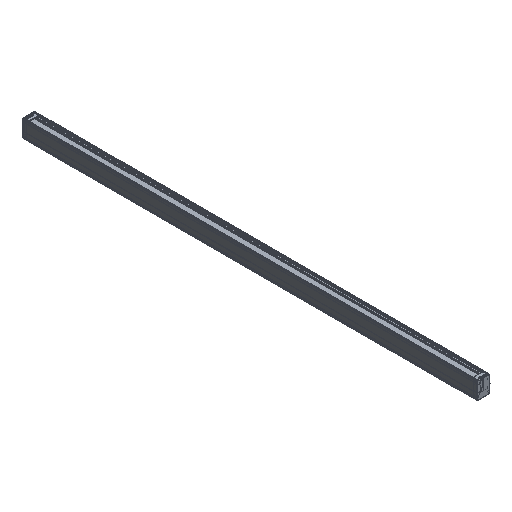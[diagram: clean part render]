
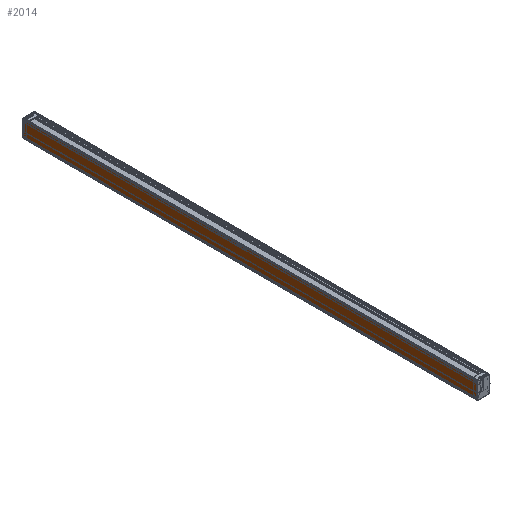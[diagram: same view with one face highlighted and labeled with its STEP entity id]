
A CAD part, isometric view. The second image highlights one B-rep face of the part: STEP entity #2014.
In plain terms, the highlighted free-form (B-spline) face has degree [2, 1] with [3, 2] control points.
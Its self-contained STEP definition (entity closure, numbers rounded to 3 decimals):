
#2014=ADVANCED_FACE('',(#4020),#72734,.T.);
#4020=FACE_OUTER_BOUND('',#6112,.T.);
#6112=EDGE_LOOP('',(#16488,#16489,#16490,#16491));
#16488=ORIENTED_EDGE('',*,*,#53050,.T.);
#16489=ORIENTED_EDGE('',*,*,#53051,.T.);
#16490=ORIENTED_EDGE('',*,*,#53052,.T.);
#16491=ORIENTED_EDGE('',*,*,#53048,.F.);
#18834=(
BOUNDED_CURVE()
B_SPLINE_CURVE(1,(#161273,#161274),.UNSPECIFIED.,.F.,.F.)
B_SPLINE_CURVE_WITH_KNOTS((2,2),(0.,2000.),.UNSPECIFIED.)
CURVE()
GEOMETRIC_REPRESENTATION_ITEM()
RATIONAL_B_SPLINE_CURVE((1.,1.))
REPRESENTATION_ITEM('')
);
#18836=(
BOUNDED_CURVE()
B_SPLINE_CURVE(2,(#161284,#161285,#161286),.UNSPECIFIED.,.F.,.F.)
B_SPLINE_CURVE_WITH_KNOTS((3,3),(-509.152,-435.152),
 .UNSPECIFIED.)
CURVE()
GEOMETRIC_REPRESENTATION_ITEM()
RATIONAL_B_SPLINE_CURVE((1.,1.,1.))
REPRESENTATION_ITEM('')
);
#18837=(
BOUNDED_CURVE()
B_SPLINE_CURVE(1,(#161289,#161290),.UNSPECIFIED.,.F.,.F.)
B_SPLINE_CURVE_WITH_KNOTS((2,2),(0.,2000.),.UNSPECIFIED.)
CURVE()
GEOMETRIC_REPRESENTATION_ITEM()
RATIONAL_B_SPLINE_CURVE((1.,1.))
REPRESENTATION_ITEM('')
);
#18838=(
BOUNDED_CURVE()
B_SPLINE_CURVE(2,(#161293,#161294,#161295),.UNSPECIFIED.,.F.,.F.)
B_SPLINE_CURVE_WITH_KNOTS((3,3),(435.152,509.152),
 .UNSPECIFIED.)
CURVE()
GEOMETRIC_REPRESENTATION_ITEM()
RATIONAL_B_SPLINE_CURVE((1.,1.,1.))
REPRESENTATION_ITEM('')
);
#19194=(
BOUNDED_CURVE()
B_SPLINE_CURVE(2,(#162893,#162894,#162895),.UNSPECIFIED.,.F.,.F.)
B_SPLINE_CURVE_WITH_KNOTS((3,3),(435.152,509.152),
 .UNSPECIFIED.)
CURVE()
GEOMETRIC_REPRESENTATION_ITEM()
RATIONAL_B_SPLINE_CURVE((1.,1.,1.))
REPRESENTATION_ITEM('')
);
#19410=(
BOUNDED_CURVE()
B_SPLINE_CURVE(2,(#163874,#163875,#163876),.UNSPECIFIED.,.F.,.F.)
B_SPLINE_CURVE_WITH_KNOTS((3,3),(-509.152,-435.152),
 .UNSPECIFIED.)
CURVE()
GEOMETRIC_REPRESENTATION_ITEM()
RATIONAL_B_SPLINE_CURVE((1.,1.,1.))
REPRESENTATION_ITEM('')
);
#29857=PCURVE('',#72733,#41141);
#29860=PCURVE('',#72734,#41144);
#29861=PCURVE('',#72734,#41145);
#29862=PCURVE('',#72734,#41146);
#29863=PCURVE('',#72734,#41147);
#29867=PCURVE('',#72735,#41151);
#30250=PCURVE('',#73977,#41534);
#30445=PCURVE('',#73980,#41729);
#41141=DEFINITIONAL_REPRESENTATION('',(#67625),#165305);
#41144=DEFINITIONAL_REPRESENTATION('',(#67628),#165305);
#41145=DEFINITIONAL_REPRESENTATION('',(#67629),#165305);
#41146=DEFINITIONAL_REPRESENTATION('',(#67630),#165305);
#41147=DEFINITIONAL_REPRESENTATION('',(#67631),#165305);
#41151=DEFINITIONAL_REPRESENTATION('',(#67635),#165305);
#41534=DEFINITIONAL_REPRESENTATION('',(#19194),#165305);
#41729=DEFINITIONAL_REPRESENTATION('',(#19410),#165305);
#47406=SURFACE_CURVE('',#18834,(#29857,#29863),.PCURVE_S1.);
#47408=SURFACE_CURVE('',#18836,(#29860,#30445),.PCURVE_S1.);
#47409=SURFACE_CURVE('',#18837,(#29861,#29867),.PCURVE_S1.);
#47410=SURFACE_CURVE('',#18838,(#29862,#30250),.PCURVE_S1.);
#53048=EDGE_CURVE('',#71694,#71695,#47406,.T.);
#53050=EDGE_CURVE('',#71694,#71696,#47408,.T.);
#53051=EDGE_CURVE('',#71696,#71697,#47409,.T.);
#53052=EDGE_CURVE('',#71697,#71695,#47410,.T.);
#67625=B_SPLINE_CURVE_WITH_KNOTS('',1,(#161275,#161276),.UNSPECIFIED.,.F.,
 .F.,(2,2),(0.,2000.),.UNSPECIFIED.);
#67628=B_SPLINE_CURVE_WITH_KNOTS('',1,(#161287,#161288),.UNSPECIFIED.,.F.,
 .F.,(2,2),(-509.152,-435.152),.UNSPECIFIED.);
#67629=B_SPLINE_CURVE_WITH_KNOTS('',1,(#161291,#161292),.UNSPECIFIED.,.F.,
 .F.,(2,2),(0.,2000.),.UNSPECIFIED.);
#67630=B_SPLINE_CURVE_WITH_KNOTS('',1,(#161296,#161297),.UNSPECIFIED.,.F.,
 .F.,(2,2),(435.152,509.152),.UNSPECIFIED.);
#67631=B_SPLINE_CURVE_WITH_KNOTS('',1,(#161298,#161299),.UNSPECIFIED.,.F.,
 .F.,(2,2),(0.,2000.),.UNSPECIFIED.);
#67635=B_SPLINE_CURVE_WITH_KNOTS('',1,(#161314,#161315),.UNSPECIFIED.,.F.,
 .F.,(2,2),(0.,2000.),.UNSPECIFIED.);
#71694=VERTEX_POINT('',#159426);
#71695=VERTEX_POINT('',#159427);
#71696=VERTEX_POINT('',#159428);
#71697=VERTEX_POINT('',#159429);
#72733=(
BOUNDED_SURFACE()
B_SPLINE_SURFACE(2,1,((#158426,#158427),(#158428,#158429),(#158430,#158431)),
 .UNSPECIFIED.,.F.,.F.,.F.)
B_SPLINE_SURFACE_WITH_KNOTS((3,3),(2,2),(-509.937,-509.152),
(0.,2000.),.UNSPECIFIED.)
GEOMETRIC_REPRESENTATION_ITEM()
RATIONAL_B_SPLINE_SURFACE(((1.,1.),(0.707,0.707),
(1.,1.)))
REPRESENTATION_ITEM('')
SURFACE()
);
#72734=(
BOUNDED_SURFACE()
B_SPLINE_SURFACE(2,1,((#158432,#158433),(#158434,#158435),(#158436,#158437)),
 .UNSPECIFIED.,.F.,.F.,.F.)
B_SPLINE_SURFACE_WITH_KNOTS((3,3),(2,2),(-509.152,-435.152),
(0.,2000.),.UNSPECIFIED.)
GEOMETRIC_REPRESENTATION_ITEM()
RATIONAL_B_SPLINE_SURFACE(((1.,1.),(1.,1.),(1.,1.)))
REPRESENTATION_ITEM('')
SURFACE()
);
#72735=(
BOUNDED_SURFACE()
B_SPLINE_SURFACE(2,1,((#158438,#158439),(#158440,#158441),(#158442,#158443)),
 .UNSPECIFIED.,.F.,.F.,.F.)
B_SPLINE_SURFACE_WITH_KNOTS((3,3),(2,2),(-435.152,-434.366),
(0.,2000.),.UNSPECIFIED.)
GEOMETRIC_REPRESENTATION_ITEM()
RATIONAL_B_SPLINE_SURFACE(((1.,1.),(0.707,0.707),
(1.,1.)))
REPRESENTATION_ITEM('')
SURFACE()
);
#73977=B_SPLINE_SURFACE_WITH_KNOTS('',1,1,((#159200,#159201),(#159202,#159203)),
 .UNSPECIFIED.,.F.,.F.,.F.,(2,2),(2,2),(-52.575,16.175),(-34.998,
58.752),.UNSPECIFIED.);
#73980=B_SPLINE_SURFACE_WITH_KNOTS('',1,1,((#159212,#159213),(#159214,#159215)),
 .UNSPECIFIED.,.F.,.F.,.F.,(2,2),(2,2),(-34.998,58.752),
(-52.575,16.175),.UNSPECIFIED.);
#158426=CARTESIAN_POINT('',(-27.,-1000.,0.));
#158427=CARTESIAN_POINT('',(-27.,1000.,0.));
#158428=CARTESIAN_POINT('',(-27.5,-1000.,0.));
#158429=CARTESIAN_POINT('',(-27.5,1000.,0.));
#158430=CARTESIAN_POINT('',(-27.5,-1000.,0.5));
#158431=CARTESIAN_POINT('',(-27.5,1000.,0.5));
#158432=CARTESIAN_POINT('',(-27.5,-1000.,0.5));
#158433=CARTESIAN_POINT('',(-27.5,1000.,0.5));
#158434=CARTESIAN_POINT('',(-27.5,-1000.,37.5));
#158435=CARTESIAN_POINT('',(-27.5,1000.,37.5));
#158436=CARTESIAN_POINT('',(-27.5,-1000.,74.5));
#158437=CARTESIAN_POINT('',(-27.5,1000.,74.5));
#158438=CARTESIAN_POINT('',(-27.5,-1000.,74.5));
#158439=CARTESIAN_POINT('',(-27.5,1000.,74.5));
#158440=CARTESIAN_POINT('',(-27.5,-1000.,75.));
#158441=CARTESIAN_POINT('',(-27.5,1000.,75.));
#158442=CARTESIAN_POINT('',(-27.,-1000.,75.));
#158443=CARTESIAN_POINT('',(-27.,1000.,75.));
#159200=CARTESIAN_POINT('',(34.375,1000.,-9.375));
#159201=CARTESIAN_POINT('',(34.375,1000.,84.375));
#159202=CARTESIAN_POINT('',(-34.375,1000.,-9.375));
#159203=CARTESIAN_POINT('',(-34.375,1000.,84.375));
#159212=CARTESIAN_POINT('',(34.375,-1000.,-9.375));
#159213=CARTESIAN_POINT('',(-34.375,-1000.,-9.375));
#159214=CARTESIAN_POINT('',(34.375,-1000.,84.375));
#159215=CARTESIAN_POINT('',(-34.375,-1000.,84.375));
#159426=CARTESIAN_POINT('',(-27.5,-1000.,0.5));
#159427=CARTESIAN_POINT('',(-27.5,1000.,0.5));
#159428=CARTESIAN_POINT('',(-27.5,-1000.,74.5));
#159429=CARTESIAN_POINT('',(-27.5,1000.,74.5));
#161273=CARTESIAN_POINT('',(-27.5,-1000.,0.5));
#161274=CARTESIAN_POINT('',(-27.5,1000.,0.5));
#161275=CARTESIAN_POINT('',(-509.152,0.));
#161276=CARTESIAN_POINT('',(-509.152,2000.));
#161284=CARTESIAN_POINT('',(-27.5,-1000.,0.5));
#161285=CARTESIAN_POINT('',(-27.5,-1000.,37.5));
#161286=CARTESIAN_POINT('',(-27.5,-1000.,74.5));
#161287=CARTESIAN_POINT('',(-509.152,0.));
#161288=CARTESIAN_POINT('',(-435.152,0.));
#161289=CARTESIAN_POINT('',(-27.5,-1000.,74.5));
#161290=CARTESIAN_POINT('',(-27.5,1000.,74.5));
#161291=CARTESIAN_POINT('',(-435.152,0.));
#161292=CARTESIAN_POINT('',(-435.152,2000.));
#161293=CARTESIAN_POINT('',(-27.5,1000.,74.5));
#161294=CARTESIAN_POINT('',(-27.5,1000.,37.5));
#161295=CARTESIAN_POINT('',(-27.5,1000.,0.5));
#161296=CARTESIAN_POINT('',(-435.152,2000.));
#161297=CARTESIAN_POINT('',(-509.152,2000.));
#161298=CARTESIAN_POINT('',(-509.152,0.));
#161299=CARTESIAN_POINT('',(-509.152,2000.));
#161314=CARTESIAN_POINT('',(-435.152,0.));
#161315=CARTESIAN_POINT('',(-435.152,2000.));
#162893=CARTESIAN_POINT('',(9.3,48.877));
#162894=CARTESIAN_POINT('',(9.3,11.877));
#162895=CARTESIAN_POINT('',(9.3,-25.123));
#163874=CARTESIAN_POINT('',(-25.123,9.3));
#163875=CARTESIAN_POINT('',(11.877,9.3));
#163876=CARTESIAN_POINT('',(48.877,9.3));
#165305=(
GEOMETRIC_REPRESENTATION_CONTEXT(2)
PARAMETRIC_REPRESENTATION_CONTEXT()
REPRESENTATION_CONTEXT('pspace','')
);
